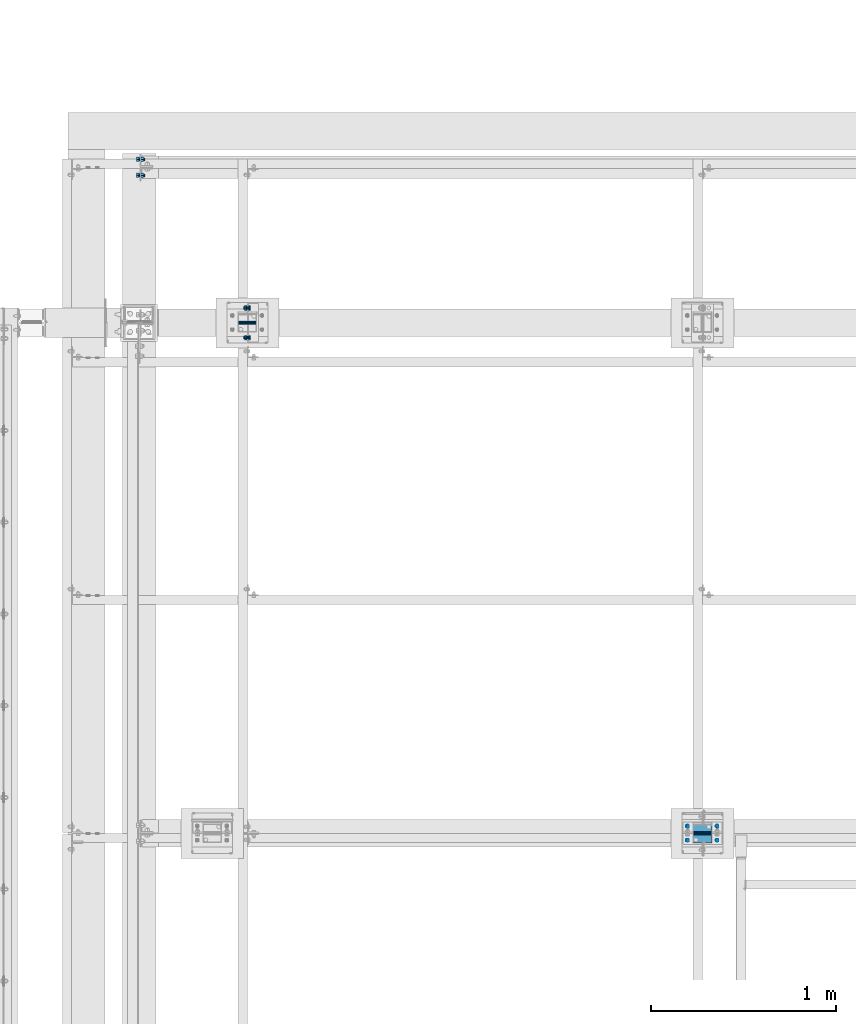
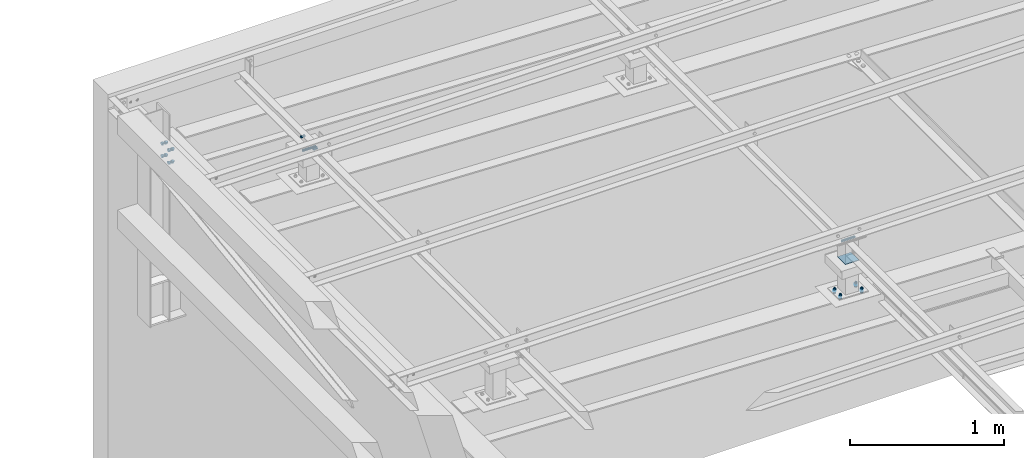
# One storey, part 211 of 3134: 8 mechanical fasteners, 5 elements without a shape of their own.
"""IFC2X3 building model written with IfcOpenShell, lengths in millimetres."""

from ifc_helpers import new_model, si_unit, frame, origin_with_axes, place, context, subcontext, project, spatial, faceted_brep, source, transform, mapped, material, type_object, element, aggregate, save


model = new_model("IFC2X3")

# Units and contexts
model_context = context("Model", 3, precision=1e-05, world=origin_with_axes())
body_context = subcontext(model_context, "Body", "Model", "MODEL_VIEW")
ifc_project = project(units=[si_unit("LENGTHUNIT", "METRE", prefix="MILLI"), si_unit("AREAUNIT", "SQUARE_METRE"), si_unit("VOLUMEUNIT", "CUBIC_METRE"), si_unit("MASSUNIT", "GRAM", prefix="KILO"), si_unit("TIMEUNIT", "SECOND"), si_unit("PLANEANGLEUNIT", "RADIAN"), si_unit("SOLIDANGLEUNIT", "STERADIAN"), si_unit("THERMODYNAMICTEMPERATUREUNIT", "DEGREE_CELSIUS"), si_unit("LUMINOUSINTENSITYUNIT", "LUMEN")], contexts=[model_context])

# Site, building, storey
site_placement = place(None, origin_with_axes())
site = spatial("IfcSite", under=ifc_project, at=site_placement, CompositionType="ELEMENT")
building_placement = place(site_placement, origin_with_axes())
building = spatial("IfcBuilding", under=site, at=building_placement, Name="Undefined", CompositionType="ELEMENT")
storey_placement = place(building_placement, origin_with_axes())
storey = spatial("IfcBuildingStorey", under=building, at=storey_placement, Name="Undefined", CompositionType="ELEMENT", Elevation=0.0)

# Assembly, mechanical fastener
assembly_1_placement = place(storey_placement, origin_with_axes())
assembly_1 = element("IfcElementAssembly", 1, at=assembly_1_placement, inside=storey, AssemblyPlace="NOTDEFINED", PredefinedType="RIGID_FRAME")
ifc_material_1 = material(Name="8.8")
mechanical_fastener_type = type_object("IfcMechanicalFastenerType", Name="Bolt assembly")
shared_shape_1 = source(origin_with_axes(), body_context, "Body", "Brep", [
    faceted_brep([(10.9696551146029, -14.0, 0.0), (5.48482755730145, -14.0, 9.5), (-5.48482755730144, -14.0, 9.5), (-10.9696551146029, -14.0, 1.34339530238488e-15), (-5.48482755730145, -14.0, -9.5), (5.48482755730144, -14.0, -9.50000000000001), (5.48482755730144, -6.0, -9.50000000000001), (-5.48482755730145, -6.0, -9.5), (-10.9696551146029, -6.0, 1.34339530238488e-15), (-5.48482755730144, -6.0, 9.5), (5.48482755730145, -6.0, 9.5), (10.9696551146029, -6.0, 0.0), (6.0, -6.0, 0.0), (5.19615242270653, -6.0, 3.00000000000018), (2.99999999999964, -6.0, 5.19615242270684), (-6.21801588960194e-13, -6.0, 6.0), (-3.00000000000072, -6.0, 5.19615242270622), (-5.19615242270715, -6.0, 2.9999999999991), (-6.0, -6.0, -1.24360317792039e-12), (-5.19615242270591, -6.0, -3.00000000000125), (-2.99999999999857, -6.0, -5.19615242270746), (1.85874342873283e-12, -6.0, -6.0), (3.00000000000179, -6.0, -5.1961524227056), (5.19615242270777, -6.0, -2.99999999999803), (5.19615242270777, 19.0, -2.99999999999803), (3.00000000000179, 19.0, -5.1961524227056), (1.85874342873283e-12, 19.0, -6.0), (-2.99999999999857, 19.0, -5.19615242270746), (-5.19615242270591, 19.0, -3.00000000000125), (-6.0, 19.0, -1.24360317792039e-12), (-5.19615242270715, 19.0, 2.9999999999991), (-3.00000000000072, 19.0, 5.19615242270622), (-6.21801588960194e-13, 19.0, 6.0), (2.99999999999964, 19.0, 5.19615242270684), (5.19615242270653, 19.0, 3.00000000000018), (6.0, 19.0, 0.0), (10.9696551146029, 4.00000000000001, 0.0), (5.48482755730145, 4.00000000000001, 9.5), (-5.48482755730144, 4.00000000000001, 9.5), (-10.9696551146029, 4.00000000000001, 1.34339530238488e-15), (-5.48482755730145, 4.00000000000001, -9.5), (5.48482755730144, 4.00000000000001, -9.50000000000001), (5.48482755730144, 14.0, -9.50000000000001), (-5.48482755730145, 14.0, -9.5), (-10.9696551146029, 14.0, 1.34339530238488e-15), (-5.48482755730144, 14.0, 9.5), (5.48482755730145, 14.0, 9.5), (10.9696551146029, 14.0, 0.0)], [[[0, 1, 2, 3, 4, 5]], [[6, 7, 8, 9, 10, 11]], [[0, 11, 10, 1]], [[1, 10, 9, 2]], [[2, 9, 8, 3]], [[3, 8, 7, 4]], [[4, 7, 6, 5]], [[5, 6, 11, 0]], [[12, 13, 14, 15, 16, 17, 18, 19, 20, 21, 22, 23]], [[24, 25, 26, 27, 28, 29, 30, 31, 32, 33, 34, 35]], [[12, 35, 34, 13]], [[13, 34, 33, 14]], [[14, 33, 32, 15]], [[15, 32, 31, 16]], [[16, 31, 30, 17]], [[17, 30, 29, 18]], [[18, 29, 28, 19]], [[19, 28, 27, 20]], [[20, 27, 26, 21]], [[21, 26, 25, 22]], [[22, 25, 24, 23]], [[23, 24, 35, 12]], [[36, 37, 38, 39, 40, 41]], [[42, 43, 44, 45, 46, 47]], [[36, 47, 46, 37]], [[37, 46, 45, 38]], [[38, 45, 44, 39]], [[39, 44, 43, 40]], [[40, 43, 42, 41]], [[41, 42, 47, 36]]]),
    faceted_brep([(7.0, -0.1, 0.0), (6.06217782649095, -0.1, 3.50000000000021), (3.49999999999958, -0.1, 6.06217782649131), (-7.25435187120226e-13, -0.1, 7.0), (-3.50000000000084, -0.1, 6.06217782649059), (-6.06217782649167, -0.1, 3.49999999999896), (-7.0, -0.1, -1.45087037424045e-12), (-6.06217782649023, -0.1, -3.50000000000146), (-3.49999999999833, -0.1, -6.06217782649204), (2.1685340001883e-12, -0.1, -7.0), (3.50000000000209, -0.1, -6.06217782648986), (6.0621778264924, -0.1, -3.4999999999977), (6.0621778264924, 4.00000000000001, -3.4999999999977), (3.50000000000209, 4.00000000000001, -6.06217782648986), (2.1685340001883e-12, 4.00000000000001, -7.0), (-3.49999999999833, 4.00000000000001, -6.06217782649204), (-6.06217782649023, 4.00000000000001, -3.50000000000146), (-7.0, 4.00000000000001, -1.45087037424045e-12), (-6.06217782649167, 4.00000000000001, 3.49999999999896), (-3.50000000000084, 4.00000000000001, 6.06217782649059), (-7.25435187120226e-13, 4.00000000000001, 7.0), (3.49999999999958, 4.00000000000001, 6.06217782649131), (6.06217782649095, 4.00000000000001, 3.50000000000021), (7.0, 4.00000000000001, 0.0), (7.0, -5.9, 0.0), (6.06217782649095, -5.9, 3.50000000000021), (3.49999999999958, -5.9, 6.06217782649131), (-7.25435187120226e-13, -5.9, 7.0), (-3.50000000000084, -5.9, 6.06217782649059), (-6.06217782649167, -5.9, 3.49999999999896), (-7.0, -5.9, -1.45087037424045e-12), (-6.06217782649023, -5.9, -3.50000000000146), (-3.49999999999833, -5.9, -6.06217782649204), (2.1685340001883e-12, -5.9, -7.0), (3.50000000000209, -5.9, -6.06217782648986), (6.0621778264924, -5.9, -3.4999999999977), (6.0621778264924, 0.0999999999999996, -3.4999999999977), (3.50000000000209, 0.0999999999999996, -6.06217782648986), (2.1685340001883e-12, 0.0999999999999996, -7.0), (-3.49999999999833, 0.0999999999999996, -6.06217782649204), (-6.06217782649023, 0.0999999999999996, -3.50000000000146), (-7.0, 0.0999999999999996, -1.45087037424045e-12), (-6.06217782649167, 0.0999999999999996, 3.49999999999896), (-3.50000000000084, 0.0999999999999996, 6.06217782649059), (-7.25435187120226e-13, 0.0999999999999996, 7.0), (3.49999999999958, 0.0999999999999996, 6.06217782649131), (6.06217782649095, 0.0999999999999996, 3.50000000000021), (7.0, 0.0999999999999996, 0.0)], [[[0, 1, 2, 3, 4, 5, 6, 7, 8, 9, 10, 11]], [[12, 13, 14, 15, 16, 17, 18, 19, 20, 21, 22, 23]], [[0, 23, 22, 1]], [[1, 22, 21, 2]], [[2, 21, 20, 3]], [[3, 20, 19, 4]], [[4, 19, 18, 5]], [[5, 18, 17, 6]], [[6, 17, 16, 7]], [[7, 16, 15, 8]], [[8, 15, 14, 9]], [[9, 14, 13, 10]], [[10, 13, 12, 11]], [[11, 12, 23, 0]], [[24, 25, 26, 27, 28, 29, 30, 31, 32, 33, 34, 35]], [[36, 37, 38, 39, 40, 41, 42, 43, 44, 45, 46, 47]], [[24, 47, 46, 25]], [[25, 46, 45, 26]], [[26, 45, 44, 27]], [[27, 44, 43, 28]], [[28, 43, 42, 29]], [[29, 42, 41, 30]], [[30, 41, 40, 31]], [[31, 40, 39, 32]], [[32, 39, 38, 33]], [[33, 38, 37, 34]], [[34, 37, 36, 35]], [[35, 36, 47, 24]]]),
])
mechanical_fastener_1_placement = place(assembly_1_placement, frame((585.0, 48445.0, 4300.0), z_axis=(0.0, 0.0, 1.0), x_axis=(0.0, 1.0, 0.0)))
mechanical_fastener_1 = element("IfcMechanicalFastener", 2, at=mechanical_fastener_1_placement, type_object=mechanical_fastener_type, material=ifc_material_1, Name="Bolt assembly", NominalDiameter=12.0, NominalLength=25.0, context=body_context, shape_type="MappedRepresentation", body=[
    mapped(shared_shape_1, transform((0.0, 0.0, 0.0))),
    mapped(shared_shape_1, transform((160.0, 0.0, 0.0))),
])

assembly_2_placement = place(storey_placement, origin_with_axes())
assembly_2 = element("IfcElementAssembly", 3, at=assembly_2_placement, inside=storey, AssemblyPlace="NOTDEFINED", PredefinedType="RIGID_FRAME")
shared_shape_2 = source(origin_with_axes(), body_context, "Body", "Brep", [
    faceted_brep([(13.856406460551, -18.5936482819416, 0.0), (6.92820323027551, -18.5936482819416, 12.0), (-6.92820323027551, -18.5936482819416, 12.0), (-13.856406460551, -18.5936482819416, 1.69692038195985e-15), (-6.92820323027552, -18.5936482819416, -12.0), (6.9282032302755, -18.5936482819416, -12.0), (6.9282032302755, -8.59364828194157, -12.0), (-6.92820323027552, -8.59364828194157, -12.0), (-13.856406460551, -8.59364828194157, 1.69692038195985e-15), (-6.92820323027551, -8.59364828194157, 12.0), (6.92820323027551, -8.59364828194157, 12.0), (13.856406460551, -8.59364828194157, 0.0), (8.0, -8.59364828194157, 0.0), (6.92820323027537, -8.59364828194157, 4.00000000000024), (3.99999999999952, -8.59364828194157, 6.92820323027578), (-8.29068785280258e-13, -8.59364828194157, 8.0), (-4.00000000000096, -8.59364828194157, 6.92820323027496), (-6.9282032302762, -8.59364828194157, 3.99999999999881), (-8.0, -8.59364828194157, -1.65813757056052e-12), (-6.92820323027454, -8.59364828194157, -4.00000000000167), (-3.99999999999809, -8.59364828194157, -6.92820323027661), (2.47832457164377e-12, -8.59364828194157, -8.0), (4.00000000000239, -8.59364828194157, -6.92820323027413), (6.92820323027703, -8.59364828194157, -3.99999999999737), (6.92820323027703, 26.4063517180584, -3.99999999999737), (4.00000000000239, 26.4063517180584, -6.92820323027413), (2.47832457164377e-12, 26.4063517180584, -8.0), (-3.99999999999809, 26.4063517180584, -6.92820323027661), (-6.92820323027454, 26.4063517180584, -4.00000000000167), (-8.0, 26.4063517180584, -1.65813757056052e-12), (-6.9282032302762, 26.4063517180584, 3.99999999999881), (-4.00000000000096, 26.4063517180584, 6.92820323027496), (-8.29068785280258e-13, 26.4063517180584, 8.0), (3.99999999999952, 26.4063517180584, 6.92820323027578), (6.92820323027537, 26.4063517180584, 4.00000000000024), (8.0, 26.4063517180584, 0.0), (13.856406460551, 7.0, 0.0), (6.92820323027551, 7.0, 12.0), (-6.92820323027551, 7.0, 12.0), (-13.856406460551, 7.0, 1.69692038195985e-15), (-6.92820323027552, 7.0, -12.0), (6.9282032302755, 7.0, -12.0), (6.9282032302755, 20.0, -12.0), (-6.92820323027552, 20.0, -12.0), (-13.856406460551, 20.0, 1.69692038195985e-15), (-6.92820323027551, 20.0, 12.0), (6.92820323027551, 20.0, 12.0), (13.856406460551, 20.0, 0.0)], [[[0, 1, 2, 3, 4, 5]], [[6, 7, 8, 9, 10, 11]], [[0, 11, 10, 1]], [[1, 10, 9, 2]], [[2, 9, 8, 3]], [[3, 8, 7, 4]], [[4, 7, 6, 5]], [[5, 6, 11, 0]], [[12, 13, 14, 15, 16, 17, 18, 19, 20, 21, 22, 23]], [[24, 25, 26, 27, 28, 29, 30, 31, 32, 33, 34, 35]], [[12, 35, 34, 13]], [[13, 34, 33, 14]], [[14, 33, 32, 15]], [[15, 32, 31, 16]], [[16, 31, 30, 17]], [[17, 30, 29, 18]], [[18, 29, 28, 19]], [[19, 28, 27, 20]], [[20, 27, 26, 21]], [[21, 26, 25, 22]], [[22, 25, 24, 23]], [[23, 24, 35, 12]], [[36, 37, 38, 39, 40, 41]], [[42, 43, 44, 45, 46, 47]], [[36, 47, 46, 37]], [[37, 46, 45, 38]], [[38, 45, 44, 39]], [[39, 44, 43, 40]], [[40, 43, 42, 41]], [[41, 42, 47, 36]]]),
    faceted_brep([(9.0, -8.49364828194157, 0.0), (7.79422863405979, -8.49364828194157, 4.50000000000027), (4.49999999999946, -8.49364828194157, 7.79422863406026), (-9.3270238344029e-13, -8.49364828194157, 9.0), (-4.50000000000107, -8.49364828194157, 7.79422863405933), (-7.79422863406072, -8.49364828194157, 4.49999999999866), (-9.0, -8.49364828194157, -1.86540476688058e-12), (-7.79422863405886, -8.49364828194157, -4.50000000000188), (-4.49999999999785, -8.49364828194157, -7.79422863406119), (2.78811514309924e-12, -8.49364828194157, -9.0), (4.50000000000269, -8.49364828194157, -7.7942286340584), (7.79422863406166, -8.49364828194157, -4.49999999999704), (7.79422863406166, 0.10635209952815, -4.49999999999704), (4.50000000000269, 0.10635209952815, -7.7942286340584), (2.78811514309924e-12, 0.10635209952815, -9.0), (-4.49999999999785, 0.10635209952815, -7.79422863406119), (-7.79422863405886, 0.10635209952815, -4.50000000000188), (-9.0, 0.10635209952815, -1.86540476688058e-12), (-7.79422863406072, 0.10635209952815, 4.49999999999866), (-4.50000000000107, 0.10635209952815, 7.79422863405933), (-9.3270238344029e-13, 0.10635209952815, 9.0), (4.49999999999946, 0.10635209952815, 7.79422863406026), (7.79422863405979, 0.10635209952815, 4.50000000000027), (9.0, 0.10635209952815, 0.0), (9.0, -0.1, 0.0), (7.79422863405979, -0.1, 4.50000000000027), (4.49999999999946, -0.1, 7.79422863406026), (-9.3270238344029e-13, -0.1, 9.0), (-4.50000000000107, -0.1, 7.79422863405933), (-7.79422863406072, -0.1, 4.49999999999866), (-9.0, -0.1, -1.86540476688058e-12), (-7.79422863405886, -0.1, -4.50000000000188), (-4.49999999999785, -0.1, -7.79422863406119), (2.78811514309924e-12, -0.1, -9.0), (4.50000000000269, -0.1, -7.7942286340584), (7.79422863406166, -0.1, -4.49999999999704), (7.79422863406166, 7.0, -4.49999999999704), (4.50000000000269, 7.0, -7.7942286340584), (2.78811514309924e-12, 7.0, -9.0), (-4.49999999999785, 7.0, -7.79422863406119), (-7.79422863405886, 7.0, -4.50000000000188), (-9.0, 7.0, -1.86540476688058e-12), (-7.79422863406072, 7.0, 4.49999999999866), (-4.50000000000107, 7.0, 7.79422863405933), (-9.3270238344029e-13, 7.0, 9.0), (4.49999999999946, 7.0, 7.79422863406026), (7.79422863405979, 7.0, 4.50000000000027), (9.0, 7.0, 0.0)], [[[0, 1, 2, 3, 4, 5, 6, 7, 8, 9, 10, 11]], [[12, 13, 14, 15, 16, 17, 18, 19, 20, 21, 22, 23]], [[0, 23, 22, 1]], [[1, 22, 21, 2]], [[2, 21, 20, 3]], [[3, 20, 19, 4]], [[4, 19, 18, 5]], [[5, 18, 17, 6]], [[6, 17, 16, 7]], [[7, 16, 15, 8]], [[8, 15, 14, 9]], [[9, 14, 13, 10]], [[10, 13, 12, 11]], [[11, 12, 23, 0]], [[24, 25, 26, 27, 28, 29, 30, 31, 32, 33, 34, 35]], [[36, 37, 38, 39, 40, 41, 42, 43, 44, 45, 46, 47]], [[24, 47, 46, 25]], [[25, 46, 45, 26]], [[26, 45, 44, 27]], [[27, 44, 43, 28]], [[28, 43, 42, 29]], [[29, 42, 41, 30]], [[30, 41, 40, 31]], [[31, 40, 39, 32]], [[32, 39, 38, 33]], [[33, 38, 37, 34]], [[34, 37, 36, 35]], [[35, 36, 47, 24]]]),
])
mechanical_fastener_2_placement = place(assembly_2_placement, frame((4.29364809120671, 49321.96, 3861.86727512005), z_axis=(0.0, 1.0, 0.0), x_axis=(0.0, 0.0, 1.0)))
mechanical_fastener_2 = element("IfcMechanicalFastener", 4, at=mechanical_fastener_2_placement, type_object=mechanical_fastener_type, material=ifc_material_1, Name="Bolt assembly", NominalDiameter=16.0, NominalLength=35.0, context=body_context, shape_type="MappedRepresentation", body=[
    mapped(shared_shape_2, transform((0.0, 0.0, 0.0))),
    mapped(shared_shape_2, transform((100.0, 0.0, 0.0))),
])
aggregate(assembly_2, [mechanical_fastener_2])

assembly_3_placement = place(storey_placement, origin_with_axes())
assembly_3 = element("IfcElementAssembly", 5, at=assembly_3_placement, inside=storey, AssemblyPlace="NOTDEFINED", PredefinedType="RIGID_FRAME")
mechanical_fastener_3_placement = place(assembly_3_placement, frame((4.29364809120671, 49408.04, 3861.86727512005), z_axis=(0.0, 1.0, 0.0), x_axis=(0.0, 0.0, 1.0)))
mechanical_fastener_3 = element("IfcMechanicalFastener", 6, at=mechanical_fastener_3_placement, type_object=mechanical_fastener_type, material=ifc_material_1, Name="Bolt assembly", NominalDiameter=16.0, NominalLength=35.0, context=body_context, shape_type="MappedRepresentation", body=[
    mapped(shared_shape_2, transform((0.0, 0.0, 0.0))),
    mapped(shared_shape_2, transform((100.0, 0.0, 0.0))),
])
aggregate(assembly_3, [mechanical_fastener_3])

assembly_4_placement = place(storey_placement, origin_with_axes())
assembly_4 = element("IfcElementAssembly", 7, at=assembly_4_placement, inside=storey, AssemblyPlace="NOTDEFINED", PredefinedType="RIGID_FRAME")
shared_shape_3 = source(origin_with_axes(), body_context, "Body", "Brep", [
    faceted_brep([(10.9696551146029, -4.1972538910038, 0.0), (5.48482755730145, -4.1972538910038, 9.5), (-5.48482755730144, -4.1972538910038, 9.5), (-10.9696551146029, -4.1972538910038, 1.34339530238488e-15), (-5.48482755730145, -4.1972538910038, -9.5), (5.48482755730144, -4.1972538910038, -9.50000000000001), (5.48482755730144, 3.8027461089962, -9.50000000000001), (-5.48482755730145, 3.8027461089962, -9.5), (-10.9696551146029, 3.8027461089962, 1.34339530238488e-15), (-5.48482755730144, 3.8027461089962, 9.5), (5.48482755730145, 3.8027461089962, 9.5), (10.9696551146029, 3.8027461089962, 0.0), (6.0, 3.8027461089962, 0.0), (5.19615242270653, 3.8027461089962, 3.00000000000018), (2.99999999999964, 3.8027461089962, 5.19615242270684), (-6.21801588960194e-13, 3.8027461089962, 6.0), (-3.00000000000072, 3.8027461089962, 5.19615242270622), (-5.19615242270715, 3.8027461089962, 2.9999999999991), (-6.0, 3.8027461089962, -1.24360317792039e-12), (-5.19615242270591, 3.8027461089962, -3.00000000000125), (-2.99999999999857, 3.8027461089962, -5.19615242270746), (1.85874342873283e-12, 3.8027461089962, -6.0), (3.00000000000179, 3.8027461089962, -5.1961524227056), (5.19615242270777, 3.8027461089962, -2.99999999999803), (5.19615242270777, 38.8027461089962, -2.99999999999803), (3.00000000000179, 38.8027461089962, -5.1961524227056), (1.85874342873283e-12, 38.8027461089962, -6.0), (-2.99999999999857, 38.8027461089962, -5.19615242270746), (-5.19615242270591, 38.8027461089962, -3.00000000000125), (-6.0, 38.8027461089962, -1.24360317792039e-12), (-5.19615242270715, 38.8027461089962, 2.9999999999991), (-3.00000000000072, 38.8027461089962, 5.19615242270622), (-6.21801588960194e-13, 38.8027461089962, 6.0), (2.99999999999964, 38.8027461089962, 5.19615242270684), (5.19615242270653, 38.8027461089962, 3.00000000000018), (6.0, 38.8027461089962, 0.0), (10.9696551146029, 23.0139082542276, 0.0), (5.48482755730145, 23.0139082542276, 9.5), (-5.48482755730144, 23.0139082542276, 9.5), (-10.9696551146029, 23.0139082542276, 1.34339530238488e-15), (-5.48482755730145, 23.0139082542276, -9.5), (5.48482755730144, 23.0139082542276, -9.50000000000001), (5.48482755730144, 33.0139082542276, -9.50000000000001), (-5.48482755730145, 33.0139082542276, -9.5), (-10.9696551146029, 33.0139082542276, 1.34339530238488e-15), (-5.48482755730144, 33.0139082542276, 9.5), (5.48482755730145, 33.0139082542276, 9.5), (10.9696551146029, 33.0139082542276, 0.0)], [[[0, 1, 2, 3, 4, 5]], [[6, 7, 8, 9, 10, 11]], [[0, 11, 10, 1]], [[1, 10, 9, 2]], [[2, 9, 8, 3]], [[3, 8, 7, 4]], [[4, 7, 6, 5]], [[5, 6, 11, 0]], [[12, 13, 14, 15, 16, 17, 18, 19, 20, 21, 22, 23]], [[24, 25, 26, 27, 28, 29, 30, 31, 32, 33, 34, 35]], [[12, 35, 34, 13]], [[13, 34, 33, 14]], [[14, 33, 32, 15]], [[15, 32, 31, 16]], [[16, 31, 30, 17]], [[17, 30, 29, 18]], [[18, 29, 28, 19]], [[19, 28, 27, 20]], [[20, 27, 26, 21]], [[21, 26, 25, 22]], [[22, 25, 24, 23]], [[23, 24, 35, 12]], [[36, 37, 38, 39, 40, 41]], [[42, 43, 44, 45, 46, 47]], [[36, 47, 46, 37]], [[37, 46, 45, 38]], [[38, 45, 44, 39]], [[39, 44, 43, 40]], [[40, 43, 42, 41]], [[41, 42, 47, 36]]]),
    faceted_brep([(7.0, 3.9027461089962, 0.0), (6.06217782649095, 3.9027461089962, 3.50000000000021), (3.49999999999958, 3.9027461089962, 6.06217782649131), (-7.25435187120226e-13, 3.9027461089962, 7.0), (-3.50000000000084, 3.9027461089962, 6.06217782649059), (-6.06217782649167, 3.9027461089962, 3.49999999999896), (-7.0, 3.9027461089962, -1.45087037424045e-12), (-6.06217782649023, 3.9027461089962, -3.50000000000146), (-3.49999999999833, 3.9027461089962, -6.06217782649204), (2.1685340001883e-12, 3.9027461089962, -7.0), (3.50000000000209, 3.9027461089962, -6.06217782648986), (6.0621778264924, 3.9027461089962, -3.4999999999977), (6.0621778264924, 13.1027459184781, -3.4999999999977), (3.50000000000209, 13.1027459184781, -6.06217782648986), (2.1685340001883e-12, 13.1027459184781, -7.0), (-3.49999999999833, 13.1027459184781, -6.06217782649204), (-6.06217782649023, 13.1027459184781, -3.50000000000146), (-7.0, 13.1027459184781, -1.45087037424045e-12), (-6.06217782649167, 13.1027459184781, 3.49999999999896), (-3.50000000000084, 13.1027459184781, 6.06217782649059), (-7.25435187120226e-13, 13.1027459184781, 7.0), (3.49999999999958, 13.1027459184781, 6.06217782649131), (6.06217782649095, 13.1027459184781, 3.50000000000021), (7.0, 13.1027459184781, 0.0), (7.0, 14.9139082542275, 0.0), (6.06217782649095, 14.9139082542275, 3.50000000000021), (3.49999999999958, 14.9139082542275, 6.06217782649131), (-7.25435187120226e-13, 14.9139082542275, 7.0), (-3.50000000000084, 14.9139082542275, 6.06217782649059), (-6.06217782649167, 14.9139082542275, 3.49999999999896), (-7.0, 14.9139082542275, -1.45087037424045e-12), (-6.06217782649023, 14.9139082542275, -3.50000000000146), (-3.49999999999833, 14.9139082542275, -6.06217782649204), (2.1685340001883e-12, 14.9139082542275, -7.0), (3.50000000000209, 14.9139082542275, -6.06217782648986), (6.0621778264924, 14.9139082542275, -3.4999999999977), (6.0621778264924, 23.0139082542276, -3.4999999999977), (3.50000000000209, 23.0139082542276, -6.06217782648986), (2.1685340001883e-12, 23.0139082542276, -7.0), (-3.49999999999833, 23.0139082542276, -6.06217782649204), (-6.06217782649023, 23.0139082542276, -3.50000000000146), (-7.0, 23.0139082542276, -1.45087037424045e-12), (-6.06217782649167, 23.0139082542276, 3.49999999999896), (-3.50000000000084, 23.0139082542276, 6.06217782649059), (-7.25435187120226e-13, 23.0139082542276, 7.0), (3.49999999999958, 23.0139082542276, 6.06217782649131), (6.06217782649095, 23.0139082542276, 3.50000000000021), (7.0, 23.0139082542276, 0.0)], [[[0, 1, 2, 3, 4, 5, 6, 7, 8, 9, 10, 11]], [[12, 13, 14, 15, 16, 17, 18, 19, 20, 21, 22, 23]], [[0, 23, 22, 1]], [[1, 22, 21, 2]], [[2, 21, 20, 3]], [[3, 20, 19, 4]], [[4, 19, 18, 5]], [[5, 18, 17, 6]], [[6, 17, 16, 7]], [[7, 16, 15, 8]], [[8, 15, 14, 9]], [[9, 14, 13, 10]], [[10, 13, 12, 11]], [[11, 12, 23, 0]], [[24, 25, 26, 27, 28, 29, 30, 31, 32, 33, 34, 35]], [[36, 37, 38, 39, 40, 41, 42, 43, 44, 45, 46, 47]], [[24, 47, 46, 25]], [[25, 46, 45, 26]], [[26, 45, 44, 27]], [[27, 44, 43, 28]], [[28, 43, 42, 29]], [[29, 42, 41, 30]], [[30, 41, 40, 31]], [[31, 40, 39, 32]], [[32, 39, 38, 33]], [[33, 38, 37, 34]], [[34, 37, 36, 35]], [[35, 36, 47, 24]]]),
])
mechanical_fastener_4_placement = place(assembly_4_placement, frame((3042.5231765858, 45804.6599999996, 3920.50000668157), z_axis=(-0.999387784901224, 0.0, 0.0349865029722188), x_axis=(0.0, -1.0, 0.0)))
mechanical_fastener_4 = element("IfcMechanicalFastener", 8, at=mechanical_fastener_4_placement, type_object=mechanical_fastener_type, material=ifc_material_1, Name="Bolt assembly", NominalDiameter=12.0, NominalLength=35.0, context=body_context, shape_type="MappedRepresentation", body=[
    mapped(shared_shape_3, transform((0.0, -5.32963895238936e-10, -79.9999999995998))),
    mapped(shared_shape_3, transform((76.0, -5.32963895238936e-10, -79.9999999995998))),
    mapped(shared_shape_3, transform((0.0, 5.3114490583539e-10, 79.9999999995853))),
    mapped(shared_shape_3, transform((76.0, 5.3114490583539e-10, 79.9999999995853))),
])

assembly_5_placement = place(storey_placement, origin_with_axes())
assembly_5 = element("IfcElementAssembly", 9, at=assembly_5_placement, inside=storey, AssemblyPlace="NOTDEFINED", PredefinedType="RIGID_FRAME")
shared_shape_4 = source(origin_with_axes(), body_context, "Body", "Brep", [
    faceted_brep([(7.0, 13.0000253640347, 0.0), (6.06217782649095, 13.0000253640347, 3.50000000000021), (3.49999999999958, 13.0000253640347, 6.06217782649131), (-7.25435187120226e-13, 13.0000253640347, 7.0), (-3.50000000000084, 13.0000253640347, 6.06217782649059), (-6.06217782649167, 13.0000253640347, 3.49999999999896), (-7.0, 13.0000253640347, -1.45087037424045e-12), (-6.06217782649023, 13.0000253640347, -3.50000000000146), (-3.49999999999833, 13.0000253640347, -6.06217782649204), (2.1685340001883e-12, 13.0000253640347, -7.0), (3.50000000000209, 13.0000253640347, -6.06217782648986), (6.0621778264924, 13.0000253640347, -3.4999999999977), (6.0621778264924, 15.0999999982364, -3.4999999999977), (3.50000000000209, 15.0999999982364, -6.06217782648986), (2.1685340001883e-12, 15.0999999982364, -7.0), (-3.49999999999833, 15.0999999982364, -6.06217782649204), (-6.06217782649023, 15.0999999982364, -3.50000000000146), (-7.0, 15.0999999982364, -1.45087037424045e-12), (-6.06217782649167, 15.0999999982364, 3.49999999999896), (-3.50000000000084, 15.0999999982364, 6.06217782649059), (-7.25435187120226e-13, 15.0999999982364, 7.0), (3.49999999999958, 15.0999999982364, 6.06217782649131), (6.06217782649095, 15.0999999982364, 3.50000000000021), (7.0, 15.0999999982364, 0.0)], [[[0, 1, 2, 3, 4, 5, 6, 7, 8, 9, 10, 11]], [[12, 13, 14, 15, 16, 17, 18, 19, 20, 21, 22, 23]], [[0, 23, 22, 1]], [[1, 22, 21, 2]], [[2, 21, 20, 3]], [[3, 20, 19, 4]], [[4, 19, 18, 5]], [[5, 18, 17, 6]], [[6, 17, 16, 7]], [[7, 16, 15, 8]], [[8, 15, 14, 9]], [[9, 14, 13, 10]], [[10, 13, 12, 11]], [[11, 12, 23, 0]]]),
])
mechanical_fastener_5_placement = place(assembly_5_placement, frame((3042.5231765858, 45804.6599999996, 3920.50000668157), z_axis=(-0.999387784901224, 0.0, 0.0349865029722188), x_axis=(0.0, -1.0, 0.0)))
mechanical_fastener_5 = element("IfcMechanicalFastener", 10, at=mechanical_fastener_5_placement, type_object=mechanical_fastener_type, material=ifc_material_1, Name="Bolt assembly", NominalDiameter=12.0, NominalLength=2.0, context=body_context, shape_type="MappedRepresentation", body=[
    mapped(shared_shape_4, transform((0.0, -5.32963895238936e-10, -79.9999999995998))),
    mapped(shared_shape_4, transform((76.0, -5.32963895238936e-10, -79.9999999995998))),
    mapped(shared_shape_4, transform((0.0, 5.3114490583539e-10, 79.9999999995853))),
    mapped(shared_shape_4, transform((76.0, 5.3114490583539e-10, 79.9999999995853))),
])
aggregate(assembly_5, [mechanical_fastener_5])

# Mechanical fastener
shared_shape_5 = source(origin_with_axes(), body_context, "Body", "Brep", [
    faceted_brep([(9.0, -50.0, 0.0), (7.79422863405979, -50.0, 4.50000000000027), (4.49999999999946, -50.0, 7.79422863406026), (-9.3270238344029e-13, -50.0, 9.0), (-4.50000000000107, -50.0, 7.79422863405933), (-7.79422863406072, -50.0, 4.49999999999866), (-9.0, -50.0, -1.86540476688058e-12), (-7.79422863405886, -50.0, -4.50000000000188), (-4.49999999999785, -50.0, -7.79422863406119), (2.78811514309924e-12, -50.0, -9.0), (4.50000000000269, -50.0, -7.7942286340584), (7.79422863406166, -50.0, -4.49999999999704), (7.79422863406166, 50.1, -4.49999999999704), (4.50000000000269, 50.1, -7.7942286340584), (2.78811514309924e-12, 50.1, -9.0), (-4.49999999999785, 50.1, -7.79422863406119), (-7.79422863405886, 50.1, -4.50000000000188), (-9.0, 50.1, -1.86540476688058e-12), (-7.79422863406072, 50.1, 4.49999999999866), (-4.50000000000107, 50.1, 7.79422863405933), (-9.3270238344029e-13, 50.1, 9.0), (4.49999999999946, 50.1, 7.79422863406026), (7.79422863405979, 50.1, 4.50000000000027), (9.0, 50.1, 0.0)], [[[0, 1, 2, 3, 4, 5, 6, 7, 8, 9, 10, 11]], [[12, 13, 14, 15, 16, 17, 18, 19, 20, 21, 22, 23]], [[0, 23, 22, 1]], [[1, 22, 21, 2]], [[2, 21, 20, 3]], [[3, 20, 19, 4]], [[4, 19, 18, 5]], [[5, 18, 17, 6]], [[6, 17, 16, 7]], [[7, 16, 15, 8]], [[8, 15, 14, 9]], [[9, 14, 13, 10]], [[10, 13, 12, 11]], [[11, 12, 23, 0]]]),
])
mechanical_fastener_6_placement = place(assembly_4_placement, frame((3043.33, 45766.66, 4345.0), z_axis=(0.0, 1.0, 0.0), x_axis=(0.0, 0.0, 1.0)))
mechanical_fastener_6 = element("IfcMechanicalFastener", 11, at=mechanical_fastener_6_placement, type_object=mechanical_fastener_type, material=ifc_material_1, Name="Bolt assembly", NominalDiameter=16.0, NominalLength=100.0, context=body_context, shape_type="MappedRepresentation", body=[
    mapped(shared_shape_5, transform((0.0, 0.0, 0.0))),
])

mechanical_fastener_7_placement = place(assembly_1_placement, frame((585.0, 48525.0, 4251.0), z_axis=(0.0, 1.0, 0.0), x_axis=(0.0, 0.0, 1.0)))
mechanical_fastener_7 = element("IfcMechanicalFastener", 12, at=mechanical_fastener_7_placement, type_object=mechanical_fastener_type, material=ifc_material_1, Name="Bolt assembly", NominalDiameter=16.0, NominalLength=100.0, context=body_context, shape_type="MappedRepresentation", body=[
    mapped(shared_shape_5, transform((0.0, 0.0, 0.0))),
])

aggregate(assembly_1, [mechanical_fastener_1, mechanical_fastener_7])

ifc_material_2 = material(Name="6.8")
shared_shape_6 = source(origin_with_axes(), body_context, "Body", "Brep", [
    faceted_brep([(51.5, 1.36424205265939e-12, 50.0), (51.3858192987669, 1.36424205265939e-12, 50.5740251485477), (51.0606601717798, 1.36424205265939e-12, 51.0606601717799), (50.5740251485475, 1.36424205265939e-12, 51.385819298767), (-50.0000000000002, 1.36424205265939e-12, 51.5), (-50.7500000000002, 1.36424205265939e-12, 51.2990381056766), (-51.2990381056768, 1.36424205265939e-12, 50.7499999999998), (-51.5, 1.36424205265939e-12, 49.9999999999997), (-51.5, 1.36424205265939e-12, -50.0000000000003), (-51.2990381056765, 1.36424205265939e-12, -50.7500000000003), (-50.7499999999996, 1.36424205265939e-12, -51.2990381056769), (-49.9999999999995, 1.36424205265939e-12, -51.5), (50.0000000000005, 1.36424205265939e-12, -51.5), (50.7500000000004, 1.36424205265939e-12, -51.2990381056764), (51.2990381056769, 1.36424205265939e-12, -50.7499999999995), (51.5, 1.36424205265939e-12, -49.9999999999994), (51.5, 5.10000000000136, -49.9999999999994), (51.2990381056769, 5.10000000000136, -50.7499999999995), (50.7500000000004, 5.10000000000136, -51.2990381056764), (50.0000000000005, 5.10000000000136, -51.5), (-49.9999999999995, 5.10000000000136, -51.5), (-50.7499999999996, 5.10000000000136, -51.2990381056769), (-51.2990381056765, 5.10000000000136, -50.7500000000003), (-51.5, 5.10000000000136, -50.0000000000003), (-51.5, 5.10000000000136, 49.9999999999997), (-51.2990381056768, 5.10000000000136, 50.7499999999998), (-50.7500000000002, 5.10000000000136, 51.2990381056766), (-50.0000000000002, 5.10000000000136, 51.5), (50.5740251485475, 5.10000000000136, 51.385819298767), (51.0606601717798, 5.10000000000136, 51.0606601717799), (51.3858192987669, 5.10000000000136, 50.5740251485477), (51.5, 5.10000000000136, 50.0)], [[[0, 1, 2, 3, 4, 5, 6, 7, 8, 9, 10, 11, 12, 13, 14, 15]], [[16, 17, 18, 19, 20, 21, 22, 23, 24, 25, 26, 27, 28, 29, 30, 31]], [[0, 31, 30, 1]], [[1, 30, 29, 2]], [[2, 29, 28, 3]], [[3, 28, 27, 4]], [[4, 27, 26, 5]], [[5, 26, 25, 6]], [[6, 25, 24, 7]], [[7, 24, 23, 8]], [[8, 23, 22, 9]], [[9, 22, 21, 10]], [[10, 21, 20, 11]], [[11, 20, 19, 12]], [[12, 19, 18, 13]], [[13, 18, 17, 14]], [[14, 17, 16, 15]], [[15, 16, 31, 0]]]),
])
mechanical_fastener_8_placement = place(assembly_4_placement, frame((3043.33, 45766.66, 4190.29), z_axis=(0.0, -1.0, 0.0), x_axis=(-1.0, 0.0, 0.0)))
mechanical_fastener_8 = element("IfcMechanicalFastener", 13, at=mechanical_fastener_8_placement, type_object=mechanical_fastener_type, material=ifc_material_2, Name="Bolt assembly", NominalDiameter=10.0, NominalLength=5.0, context=body_context, shape_type="MappedRepresentation", body=[
    mapped(shared_shape_6, transform((0.0, 0.0, 0.0))),
])

aggregate(assembly_4, [mechanical_fastener_8, mechanical_fastener_4, mechanical_fastener_6])

save(model, "model.ifc")
